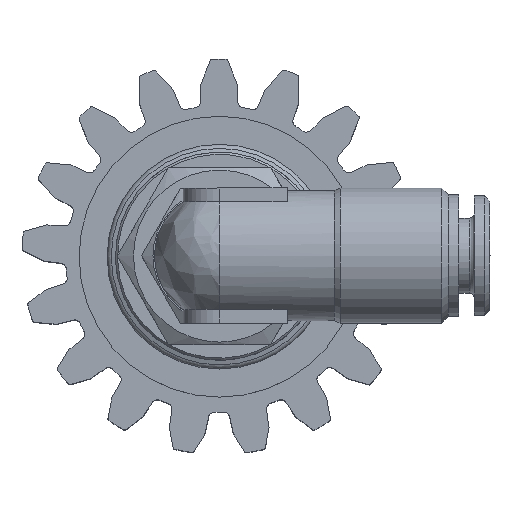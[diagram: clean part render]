
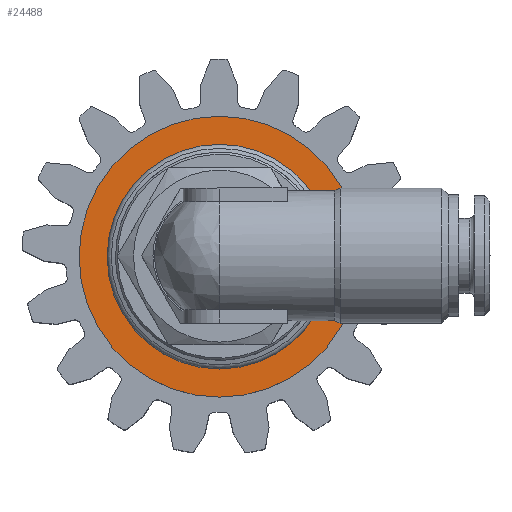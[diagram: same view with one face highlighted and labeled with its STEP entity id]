
A CAD part, top view. The second image highlights one B-rep face of the part: STEP entity #24488.
In plain terms, the highlighted planar face has unit normal (0, 0, 1) as drawn and (0, 1, 0) by its records, which use the part's own axes.
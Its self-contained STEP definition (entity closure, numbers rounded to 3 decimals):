
#279 = DIRECTION ( 'NONE',  ( 0., 1., 0. ) ) ;
#966 = EDGE_LOOP ( 'NONE', ( #17236 ) ) ;
#1142 = FACE_BOUND ( 'NONE', #966, .T. ) ;
#3295 = EDGE_CURVE ( 'NONE', #15965, #15965, #29823, .T. ) ;
#3717 = FACE_OUTER_BOUND ( 'NONE', #7778, .T. ) ;
#4558 = CIRCLE ( 'NONE', #21644, 10.8 ) ;
#7778 = EDGE_LOOP ( 'NONE', ( #18473 ) ) ;
#8447 = EDGE_CURVE ( 'NONE', #29839, #29839, #4558, .T. ) ;
#8861 = AXIS2_PLACEMENT_3D ( 'NONE', #16465, #21238, #26108 ) ;
#8930 = CARTESIAN_POINT ( 'NONE',  ( 0., 0.6, 10.8 ) ) ;
#13009 = DIRECTION ( 'NONE',  ( 0., 0., -1. ) ) ;
#13839 = CARTESIAN_POINT ( 'NONE',  ( 0., 0.6, 13.5 ) ) ;
#14127 = CARTESIAN_POINT ( 'NONE',  ( 0., 0.6, 0. ) ) ;
#15965 = VERTEX_POINT ( 'NONE', #13839 ) ;
#16465 = CARTESIAN_POINT ( 'NONE',  ( 0., 0.6, 0. ) ) ;
#17236 = ORIENTED_EDGE ( 'NONE', *, *, #8447, .F. ) ;
#17576 = DIRECTION ( 'NONE',  ( 0., -1., 0. ) ) ;
#18473 = ORIENTED_EDGE ( 'NONE', *, *, #3295, .T. ) ;
#19584 = CARTESIAN_POINT ( 'NONE',  ( 13.5, 0.6, 0. ) ) ;
#21167 = DIRECTION ( 'NONE',  ( 0., 0., 1. ) ) ;
#21238 = DIRECTION ( 'NONE',  ( 0., 1., 0. ) ) ;
#21644 = AXIS2_PLACEMENT_3D ( 'NONE', #14127, #279, #21167 ) ;
#21889 = PLANE ( 'NONE',  #28034 ) ;
#24488 = ADVANCED_FACE ( 'NONE', ( #1142, #3717 ), #21889, .F. ) ;
#26108 = DIRECTION ( 'NONE',  ( 0., 0., 1. ) ) ;
#28034 = AXIS2_PLACEMENT_3D ( 'NONE', #19584, #17576, #13009 ) ;
#29823 = CIRCLE ( 'NONE', #8861, 13.5 ) ;
#29839 = VERTEX_POINT ( 'NONE', #8930 ) ;
